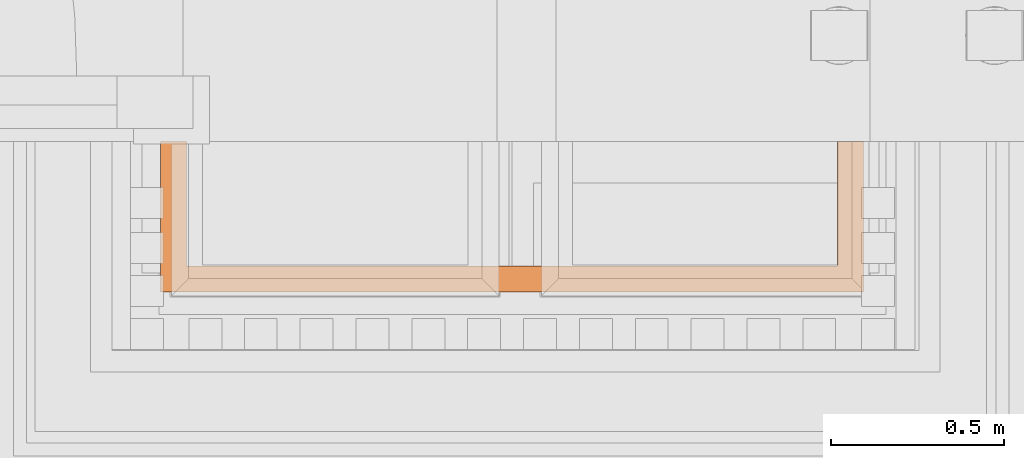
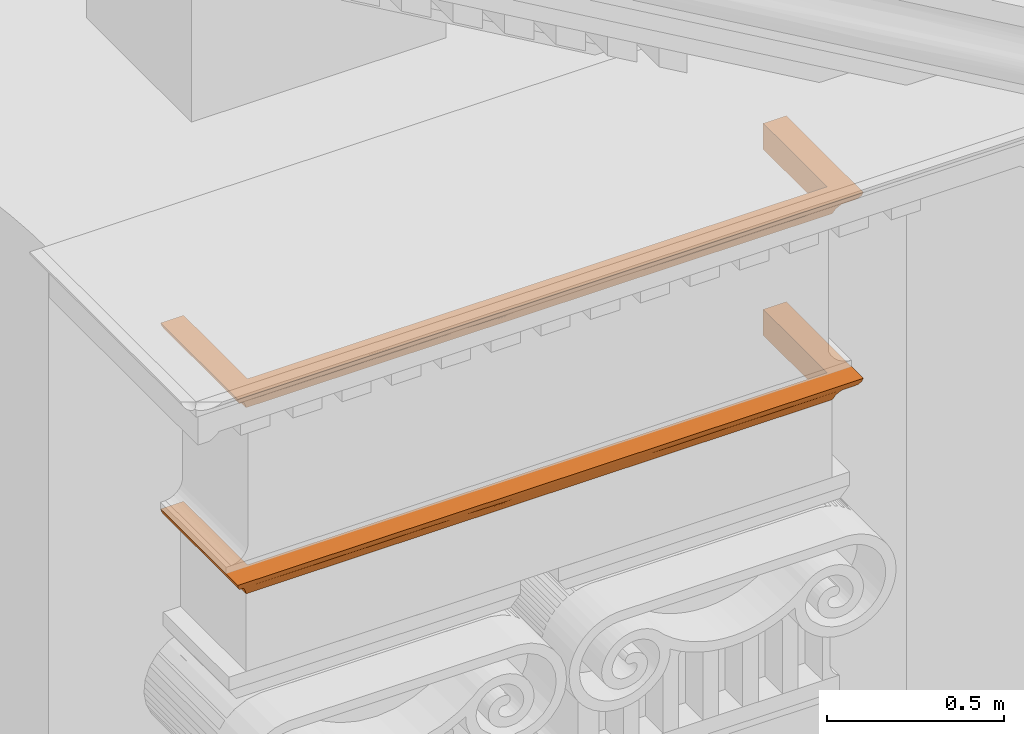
# One storey, part 34 of 44: 2 proxies.
"""IFC2X3 building model written with IfcOpenShell, lengths in metres."""

from ifc_helpers import new_model, entity, si_unit, converted_unit, derived_unit, direction, frame, origin, place, context, subcontext, project, spatial, faceted_brep, material, element, save


model = new_model("IFC2X3")

# Units and contexts
model_context = context("Model", 3, precision=1e-05, world=origin(), true_north=direction((6.12303176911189e-17, 1.0)))
body_context = subcontext(model_context, "Body", "Model", "MODEL_VIEW")
ifc_project = project(units=[si_unit("LENGTHUNIT", "METRE"), si_unit("AREAUNIT", "SQUARE_METRE"), si_unit("VOLUMEUNIT", "CUBIC_METRE"), converted_unit("PLANEANGLEUNIT", "DEGREE", entity("IfcRatioMeasure", 0.0174532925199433), si_unit("PLANEANGLEUNIT", "RADIAN"), dimensions=[0, 0, 0, 0, 0, 0, 0]), si_unit("MASSUNIT", "GRAM", prefix="KILO"), derived_unit("MASSDENSITYUNIT", [(si_unit("MASSUNIT", "GRAM", prefix="KILO"), 1), (si_unit("LENGTHUNIT", "METRE"), -3)]), si_unit("TIMEUNIT", "SECOND"), si_unit("FREQUENCYUNIT", "HERTZ"), si_unit("THERMODYNAMICTEMPERATUREUNIT", "DEGREE_CELSIUS"), derived_unit("THERMALTRANSMITTANCEUNIT", [(si_unit("MASSUNIT", "GRAM", prefix="KILO"), 1), (si_unit("THERMODYNAMICTEMPERATUREUNIT", "KELVIN"), -1), (si_unit("TIMEUNIT", "SECOND"), -3)]), derived_unit("VOLUMETRICFLOWRATEUNIT", [(si_unit("LENGTHUNIT", "METRE"), 3), (si_unit("TIMEUNIT", "SECOND"), -1)]), si_unit("ELECTRICCURRENTUNIT", "AMPERE"), si_unit("ELECTRICVOLTAGEUNIT", "VOLT"), si_unit("POWERUNIT", "WATT"), si_unit("FORCEUNIT", "NEWTON", prefix="KILO"), si_unit("ILLUMINANCEUNIT", "LUX"), si_unit("LUMINOUSFLUXUNIT", "LUMEN"), si_unit("LUMINOUSINTENSITYUNIT", "CANDELA"), derived_unit("USERDEFINED", [(si_unit("MASSUNIT", "GRAM", prefix="KILO"), -1), (si_unit("LENGTHUNIT", "METRE"), -2), (si_unit("TIMEUNIT", "SECOND"), 3), (si_unit("LUMINOUSFLUXUNIT", "LUMEN"), 1)]), derived_unit("LINEARVELOCITYUNIT", [(si_unit("LENGTHUNIT", "METRE"), 1), (si_unit("TIMEUNIT", "SECOND"), -1)]), si_unit("PRESSUREUNIT", "PASCAL"), derived_unit("USERDEFINED", [(si_unit("LENGTHUNIT", "METRE"), -2), (si_unit("MASSUNIT", "GRAM", prefix="KILO"), 1), (si_unit("TIMEUNIT", "SECOND"), -2)])], contexts=[model_context])

# Site, building, storey
site_placement = place(None, origin())
site = spatial("IfcSite", under=ifc_project, at=site_placement, Name="Default", CompositionType="ELEMENT")
building_placement = place(site_placement, origin())
building = spatial("IfcBuilding", under=site, at=building_placement, CompositionType="ELEMENT")
storey_placement = place(building_placement, origin())
storey = spatial("IfcBuildingStorey", under=building, at=storey_placement, Name="Livello 1", CompositionType="ELEMENT", Elevation=0.0)

# Proxies
ifc_material = material(Name="Piperno")
proxy_1_placement = place(storey_placement, frame((2.75105647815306, 0.826731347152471, 21.9353568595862)))
element("IfcBuildingElementProxy", 1, at=proxy_1_placement, inside=storey, material=ifc_material, Name="Stratigrafia", context=body_context, shape_type="Brep", body=[
    faceted_brep([(1.96261294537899, 0.436641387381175, 0.0912885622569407), (2.03761294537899, 0.436641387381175, 0.0912885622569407), (2.03387347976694, 0.436641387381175, 0.0791148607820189), (2.02722756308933, 0.436641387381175, 0.0682514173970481), (2.01809170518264, 0.436641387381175, 0.0593790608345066), (2.007038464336, 0.436641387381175, 0.0530538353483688), (1.99242845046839, 0.436641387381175, 0.038323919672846), (1.98112304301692, 0.436641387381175, 0.020928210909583), (1.97359573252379, 0.436641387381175, 0.0015952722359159), (1.96261294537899, 0.436641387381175, 0.0015952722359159), (0.0467797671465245, 0.436641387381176, 0.038323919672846), (0.0321697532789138, 0.436641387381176, 0.0530538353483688), (0.0211165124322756, 0.436641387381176, 0.0593790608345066), (0.0119806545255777, 0.436641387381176, 0.0682514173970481), (0.00533473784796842, 0.436641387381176, 0.0791148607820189), (0.00159527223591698, 0.436641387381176, 0.0912885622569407), (0.0765952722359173, 0.436641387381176, 0.0912885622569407), (0.0765952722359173, 0.436641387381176, 0.0015952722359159), (0.0656124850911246, 0.436641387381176, 0.0015952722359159), (0.0580851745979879, 0.436641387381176, 0.020928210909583), (2.007038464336, 0.207952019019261, 0.0530538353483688), (2.007038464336, 0.187600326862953, 0.0530538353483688), (2.007038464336, 0.032169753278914, 0.0530538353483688), (1.99242845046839, 0.0467797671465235, 0.038323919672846), (1.98112304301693, 0.0580851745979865, 0.020928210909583), (1.97359573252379, 0.0656124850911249, 0.0015952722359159), (1.62202667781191, 0.0656124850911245, 0.0015952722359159), (1.27046453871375, 0.0656124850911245, 0.0015952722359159), (1.0196006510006, 0.0656124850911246, 0.0015952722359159), (0.768736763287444, 0.0656124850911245, 0.0015952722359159), (0.417174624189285, 0.0656124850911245, 0.0015952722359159), (0.0656124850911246, 0.065612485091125, 0.0015952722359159), (0.0765952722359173, 0.0765952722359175, 0.0015952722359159), (1.96261294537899, 0.0765952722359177, 0.0015952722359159), (1.96261294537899, 0.0765952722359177, 0.0912885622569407), (0.00159527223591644, 0.250636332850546, 0.0912885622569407), (0.00159527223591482, 0.00159527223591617, 0.0912885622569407), (0.250633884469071, 0.00159527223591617, 0.0912885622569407), (0.499675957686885, 0.00159527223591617, 0.0912885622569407), (0.759640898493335, 0.00159527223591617, 0.0912885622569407), (1.01960237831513, 0.00159527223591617, 0.0912885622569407), (1.27956731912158, 0.00159527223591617, 0.0912885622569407), (1.53953225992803, 0.00159527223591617, 0.0912885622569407), (1.78857087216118, 0.00159527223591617, 0.0912885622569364), (2.03761294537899, 0.00159527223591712, 0.0912885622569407), (2.03761294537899, 0.250636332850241, 0.0912885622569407), (0.0765952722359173, 0.0765952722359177, 0.0912885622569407), (2.03387347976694, 0.00533473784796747, 0.0791148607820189), (2.03089181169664, 0.224311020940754, 0.0734743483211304), (2.0350515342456, 0.266552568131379, 0.0819540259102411), (2.01809170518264, 0.0211165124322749, 0.0593790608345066), (2.01517555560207, 0.262980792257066, 0.0573396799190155), (2.02293837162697, 0.232788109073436, 0.0635282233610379), (2.02722756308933, 0.0119806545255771, 0.0682514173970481), (0.0467797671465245, 0.0467797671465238, 0.038323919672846), (0.0580851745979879, 0.0580851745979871, 0.020928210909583), (0.367866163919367, 0.0521366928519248, 0.0310412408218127), (1.67134205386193, 0.0521366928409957, 0.031041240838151), (0.383732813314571, 0.0321697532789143, 0.0530538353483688), (1.65547540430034, 0.0321697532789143, 0.0530538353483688), (1.45159991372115, 0.0460051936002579, 0.0392723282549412), (0.592959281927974, 0.0590390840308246, 0.019018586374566), (1.17857156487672, 0.049325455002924, 0.0350321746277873), (1.33754250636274, 0.0321697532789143, 0.0530538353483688), (1.26864147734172, 0.0321697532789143, 0.0530538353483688), (1.02833349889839, 0.0321697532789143, 0.0530538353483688), (1.01960410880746, 0.0321697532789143, 0.0530538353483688), (0.860636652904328, 0.0522964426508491, 0.0308017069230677), (0.779291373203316, 0.0321697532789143, 0.0530538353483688), (0.701665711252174, 0.0321697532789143, 0.0530538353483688), (1.75799633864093, 0.0321697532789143, 0.0530538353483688), (0.281211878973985, 0.0321697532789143, 0.0530538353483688), (0.0321697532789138, 0.0321697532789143, 0.0530538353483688), (0.604066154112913, 0.0469191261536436, 0.0381507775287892), (0.530254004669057, 0.0321697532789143, 0.0530538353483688), (1.42275632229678, 0.0580212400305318, 0.021052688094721), (1.14503538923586, 0.0596767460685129, 0.0176830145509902), (1.50895421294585, 0.0321697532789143, 0.0530538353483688), (0.546115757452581, 0.00416868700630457, 0.081922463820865), (0.375156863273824, 0.00622593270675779, 0.0772409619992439), (0.585577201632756, 0.00852306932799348, 0.0731394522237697), (1.85863883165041, 0.00817935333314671, 0.0736996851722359), (0.180569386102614, 0.00817935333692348, 0.0736996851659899), (0.195154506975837, 0.0146448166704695, 0.065179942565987), (0.391043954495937, 0.0157075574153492, 0.0640828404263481), (0.267640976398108, 0.0224796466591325, 0.0583878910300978), (1.77156724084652, 0.0224796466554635, 0.058387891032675), (0.00533473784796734, 0.00533473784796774, 0.0791148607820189), (0.0119806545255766, 0.0119806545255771, 0.0682514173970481), (1.59272306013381, 0.0227911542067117, 0.058170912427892), (1.66405135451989, 0.00622593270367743, 0.0772409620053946), (0.960630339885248, 0.00510136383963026, 0.0796404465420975), (1.24637643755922, 0.00976144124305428, 0.0712452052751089), (1.4095491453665, 0.00485209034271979, 0.0802202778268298), (1.1986408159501, 0.0044919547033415, 0.0810951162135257), (0.915845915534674, 0.0196818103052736, 0.0604998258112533), (0.809439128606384, 0.0097344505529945, 0.0712845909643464), (0.639048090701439, 0.016007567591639, 0.0637847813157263), (1.84405371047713, 0.0146448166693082, 0.0651799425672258), (1.47132453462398, 0.010690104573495, 0.0699361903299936), (1.43760442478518, 0.0189403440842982, 0.0611124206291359), (0.729067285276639, 0.00473336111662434, 0.0805036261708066), (0.173994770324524, 0.00391099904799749, 0.0826144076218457), (0.463092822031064, 0.023354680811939, 0.0577870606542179), (1.02783945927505, 0.0108170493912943, 0.0697638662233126), (1.21750503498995, 0.0210338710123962, 0.0594414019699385), (1.8652134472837, 0.00391099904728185, 0.0826144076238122), (1.64816426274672, 0.0157075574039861, 0.0640828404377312), (0.661373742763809, 0.0244211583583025, 0.0570902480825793), (0.0211165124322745, 0.021116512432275, 0.0593790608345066), (0.0321697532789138, 0.187600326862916, 0.0530538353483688), (0.0321697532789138, 0.207952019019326, 0.0530538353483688), (0.0083164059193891, 0.22431102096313, 0.0734743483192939), (0.00403364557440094, 0.180264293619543, 0.0822812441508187), (0.0236134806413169, 0.19090797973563, 0.0576144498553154), (0.0162698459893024, 0.232788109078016, 0.0635282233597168)], [[[0, 1, 2, 3, 4, 5, 6, 7, 8, 9]], [[10, 11, 12, 13, 14, 15, 16, 17, 18, 19]], [[6, 5, 20, 21, 22, 23]], [[23, 24, 7, 6]], [[25, 8, 7, 24]], [[9, 8, 25, 26, 27, 28, 29, 30, 31, 18, 17, 32, 33]], [[0, 9, 33, 34]], [[16, 15, 35, 36, 37, 38, 39, 40, 41, 42, 43, 44, 45, 1, 0, 34, 46]], [[47, 48, 49]], [[50, 51, 52]], [[49, 48, 2]], [[45, 44, 49, 1]], [[44, 47, 49]], [[52, 53, 50]], [[2, 48, 3]], [[51, 21, 20, 5]], [[3, 48, 52]], [[1, 49, 2]], [[21, 51, 50]], [[5, 4, 51]], [[50, 22, 21]], [[53, 52, 48]], [[52, 51, 4]], [[52, 4, 3]], [[47, 53, 48]], [[54, 55, 56]], [[26, 25, 24]], [[30, 55, 31]], [[57, 24, 23]], [[58, 54, 56]], [[23, 59, 57]], [[59, 60, 57]], [[61, 56, 30]], [[62, 63, 64, 65, 66]], [[67, 66, 68, 69]], [[67, 62, 66]], [[23, 22, 70, 59]], [[54, 58, 71, 72]], [[73, 69, 74, 58]], [[56, 55, 30]], [[57, 26, 24]], [[27, 26, 75]], [[27, 76, 28]], [[67, 73, 61]], [[30, 29, 61]], [[76, 27, 75]], [[57, 60, 75]], [[62, 67, 76]], [[28, 76, 67]], [[28, 67, 29]], [[62, 60, 63]], [[76, 75, 62]], [[57, 75, 26]], [[75, 60, 62]], [[60, 59, 77, 63]], [[56, 61, 73]], [[61, 29, 67]], [[56, 73, 58]], [[69, 73, 67]], [[34, 33, 32, 46]], [[78, 79, 80]], [[53, 47, 81]], [[82, 83, 84]], [[72, 71, 85]], [[86, 70, 22]], [[87, 88, 82]], [[70, 86, 89]], [[38, 37, 79]], [[42, 90, 43]], [[91, 40, 39]], [[92, 93, 94]], [[95, 96, 97]], [[86, 50, 98]], [[53, 81, 98]], [[93, 99, 90]], [[92, 100, 99]], [[101, 80, 96]], [[82, 102, 87]], [[85, 84, 83]], [[84, 79, 82]], [[36, 87, 102]], [[97, 80, 84]], [[103, 84, 85]], [[92, 104, 105]], [[81, 106, 90]], [[44, 43, 106]], [[36, 102, 37]], [[98, 81, 107]], [[99, 93, 92]], [[108, 74, 69, 68]], [[82, 88, 83]], [[71, 103, 85]], [[50, 86, 22]], [[102, 79, 37]], [[88, 109, 83]], [[109, 72, 85]], [[109, 85, 83]], [[103, 71, 58, 74]], [[97, 96, 80]], [[103, 97, 84]], [[94, 104, 92]], [[103, 108, 97]], [[95, 68, 66, 65]], [[95, 97, 108]], [[95, 65, 105]], [[100, 64, 63, 77]], [[99, 100, 107]], [[39, 101, 91]], [[84, 80, 79]], [[101, 96, 91]], [[80, 101, 78]], [[78, 39, 38]], [[104, 91, 96]], [[41, 94, 93]], [[41, 93, 42]], [[91, 94, 40]], [[90, 42, 93]], [[96, 95, 104]], [[105, 104, 95]], [[100, 92, 105]], [[90, 99, 107]], [[100, 105, 64]], [[107, 89, 86]], [[106, 81, 47]], [[107, 81, 90]], [[86, 98, 107]], [[50, 53, 98]], [[107, 100, 89]], [[39, 78, 101]], [[79, 78, 38]], [[79, 102, 82]], [[44, 106, 47]], [[90, 106, 43]], [[100, 77, 89]], [[89, 77, 59, 70]], [[40, 94, 41]], [[104, 94, 91]], [[74, 108, 103]], [[95, 108, 68]], [[105, 65, 64]], [[54, 72, 110, 111, 11, 10]], [[10, 19, 55, 54]], [[19, 18, 31, 55]], [[46, 32, 17, 16]], [[14, 112, 113]], [[12, 114, 115]], [[35, 15, 14]], [[36, 35, 113]], [[13, 12, 115]], [[14, 13, 112]], [[112, 87, 113]], [[72, 114, 11, 111, 110]], [[114, 72, 109]], [[112, 13, 115]], [[36, 113, 87]], [[114, 12, 11]], [[88, 112, 115]], [[88, 115, 109]], [[109, 115, 114]], [[14, 113, 35]], [[87, 112, 88]]]),
])
proxy_2_placement = place(storey_placement, frame((2.75105647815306, 0.82673134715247, 22.5753568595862)))
element("IfcBuildingElementProxy", 2, at=proxy_2_placement, inside=storey, material=ifc_material, Name="Stratigrafia", context=body_context, shape_type="Brep", body=[
    faceted_brep([(1.96261294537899, 0.436641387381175, 0.0912885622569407), (2.03761294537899, 0.436641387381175, 0.0912885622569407), (2.03387347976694, 0.436641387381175, 0.0791148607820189), (2.02722756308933, 0.436641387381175, 0.0682514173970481), (2.01809170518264, 0.436641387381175, 0.0593790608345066), (2.007038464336, 0.436641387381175, 0.0530538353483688), (1.99242845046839, 0.436641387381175, 0.038323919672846), (1.98112304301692, 0.436641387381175, 0.020928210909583), (1.97359573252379, 0.436641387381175, 0.0015952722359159), (1.96261294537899, 0.436641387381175, 0.0015952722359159), (0.0467797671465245, 0.436641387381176, 0.038323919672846), (0.0321697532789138, 0.436641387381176, 0.0530538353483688), (0.0211165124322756, 0.436641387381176, 0.0593790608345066), (0.0119806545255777, 0.436641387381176, 0.0682514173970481), (0.00533473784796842, 0.436641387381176, 0.0791148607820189), (0.00159527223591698, 0.436641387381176, 0.0912885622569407), (0.0765952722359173, 0.436641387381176, 0.0912885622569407), (0.0765952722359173, 0.436641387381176, 0.0015952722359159), (0.0656124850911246, 0.436641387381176, 0.0015952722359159), (0.0580851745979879, 0.436641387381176, 0.020928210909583), (2.007038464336, 0.207952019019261, 0.0530538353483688), (2.007038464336, 0.187600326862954, 0.0530538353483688), (2.007038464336, 0.0321697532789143, 0.0530538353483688), (1.99242845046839, 0.0467797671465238, 0.038323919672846), (1.98112304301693, 0.0580851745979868, 0.020928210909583), (1.97359573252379, 0.0656124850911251, 0.0015952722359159), (1.62202667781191, 0.0656124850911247, 0.0015952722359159), (1.27046453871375, 0.0656124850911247, 0.0015952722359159), (1.0196006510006, 0.0656124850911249, 0.0015952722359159), (0.768736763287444, 0.0656124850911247, 0.0015952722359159), (0.417174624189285, 0.0656124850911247, 0.0015952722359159), (0.0656124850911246, 0.0656124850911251, 0.0015952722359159), (0.0765952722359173, 0.0765952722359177, 0.0015952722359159), (1.96261294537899, 0.0765952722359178, 0.0015952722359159), (1.96261294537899, 0.0765952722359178, 0.0912885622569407), (0.00159527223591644, 0.250636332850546, 0.0912885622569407), (0.00159527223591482, 0.00159527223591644, 0.0912885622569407), (0.250633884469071, 0.00159527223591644, 0.0912885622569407), (0.499675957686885, 0.00159527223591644, 0.0912885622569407), (0.759640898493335, 0.00159527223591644, 0.0912885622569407), (1.01960237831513, 0.00159527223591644, 0.0912885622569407), (1.27956731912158, 0.00159527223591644, 0.0912885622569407), (1.53953225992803, 0.00159527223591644, 0.0912885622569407), (1.78857087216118, 0.00159527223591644, 0.0912885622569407), (2.03761294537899, 0.00159527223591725, 0.0912885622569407), (2.03761294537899, 0.250636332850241, 0.0912885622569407), (0.0765952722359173, 0.0765952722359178, 0.0912885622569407), (2.03387347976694, 0.00533473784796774, 0.0791148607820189), (2.03089181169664, 0.224311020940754, 0.0734743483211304), (2.0350515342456, 0.266552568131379, 0.0819540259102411), (2.01809170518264, 0.0211165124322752, 0.0593790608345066), (2.01517555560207, 0.262980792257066, 0.0573396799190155), (2.02293837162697, 0.232788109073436, 0.0635282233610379), (2.02722756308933, 0.0119806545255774, 0.0682514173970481), (0.0467797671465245, 0.0467797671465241, 0.038323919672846), (0.0580851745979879, 0.0580851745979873, 0.020928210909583), (0.367866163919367, 0.052136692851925, 0.0310412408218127), (1.67134205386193, 0.0521366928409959, 0.031041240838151), (0.383732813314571, 0.0321697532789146, 0.0530538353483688), (1.65547540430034, 0.0321697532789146, 0.0530538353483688), (1.45159991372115, 0.0460051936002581, 0.0392723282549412), (0.592959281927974, 0.0590390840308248, 0.019018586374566), (1.17857156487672, 0.0493254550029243, 0.0350321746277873), (1.33754250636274, 0.0321697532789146, 0.0530538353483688), (1.26864147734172, 0.0321697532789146, 0.0530538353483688), (1.02833349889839, 0.0321697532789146, 0.0530538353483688), (1.01960410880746, 0.0321697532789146, 0.0530538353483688), (0.860636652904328, 0.0522964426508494, 0.0308017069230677), (0.779291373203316, 0.0321697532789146, 0.0530538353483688), (0.701665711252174, 0.0321697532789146, 0.0530538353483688), (1.75799633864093, 0.0321697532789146, 0.0530538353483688), (0.281211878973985, 0.0321697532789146, 0.0530538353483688), (0.0321697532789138, 0.0321697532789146, 0.0530538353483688), (0.604066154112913, 0.0469191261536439, 0.0381507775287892), (0.530254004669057, 0.0321697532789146, 0.0530538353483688), (1.42275632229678, 0.058021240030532, 0.021052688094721), (1.14503538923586, 0.0596767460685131, 0.0176830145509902), (1.50895421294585, 0.0321697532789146, 0.0530538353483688), (0.546115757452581, 0.00416868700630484, 0.081922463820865), (0.375156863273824, 0.00622593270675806, 0.0772409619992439), (0.585577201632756, 0.00852306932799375, 0.0731394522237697), (1.85863883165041, 0.00817935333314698, 0.0736996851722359), (0.180569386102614, 0.00817935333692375, 0.0736996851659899), (0.195154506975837, 0.0146448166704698, 0.065179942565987), (0.391043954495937, 0.0157075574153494, 0.0640828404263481), (0.267640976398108, 0.0224796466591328, 0.0583878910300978), (1.77156724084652, 0.0224796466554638, 0.058387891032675), (0.00533473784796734, 0.00533473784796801, 0.0791148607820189), (0.0119806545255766, 0.0119806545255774, 0.0682514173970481), (1.59272306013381, 0.0227911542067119, 0.058170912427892), (1.66405135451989, 0.00622593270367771, 0.0772409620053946), (0.960630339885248, 0.00510136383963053, 0.0796404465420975), (1.24637643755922, 0.00976144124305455, 0.0712452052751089), (1.4095491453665, 0.00485209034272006, 0.0802202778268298), (1.1986408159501, 0.00449195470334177, 0.0810951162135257), (0.915845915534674, 0.0196818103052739, 0.0604998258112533), (0.809439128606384, 0.00973445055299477, 0.0712845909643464), (0.639048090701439, 0.0160075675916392, 0.0637847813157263), (1.84405371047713, 0.0146448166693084, 0.0651799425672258), (1.47132453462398, 0.0106901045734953, 0.0699361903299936), (1.43760442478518, 0.0189403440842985, 0.0611124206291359), (0.729067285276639, 0.00473336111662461, 0.0805036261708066), (0.173994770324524, 0.00391099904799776, 0.0826144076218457), (0.463092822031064, 0.0233546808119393, 0.0577870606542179), (1.02783945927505, 0.0108170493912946, 0.0697638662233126), (1.21750503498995, 0.0210338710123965, 0.0594414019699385), (1.8652134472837, 0.00391099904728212, 0.0826144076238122), (1.64816426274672, 0.0157075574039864, 0.0640828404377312), (0.661373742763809, 0.0244211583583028, 0.0570902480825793), (0.0211165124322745, 0.0211165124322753, 0.0593790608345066), (0.0321697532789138, 0.187600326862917, 0.0530538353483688), (0.0321697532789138, 0.207952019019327, 0.0530538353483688), (0.0083164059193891, 0.224311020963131, 0.0734743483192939), (0.00403364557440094, 0.180264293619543, 0.0822812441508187), (0.0236134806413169, 0.19090797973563, 0.0576144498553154), (0.0162698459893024, 0.232788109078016, 0.0635282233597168)], [[[0, 1, 2, 3, 4, 5, 6, 7, 8, 9]], [[10, 11, 12, 13, 14, 15, 16, 17, 18, 19]], [[6, 5, 20, 21, 22, 23]], [[23, 24, 7, 6]], [[25, 8, 7, 24]], [[9, 8, 25, 26, 27, 28, 29, 30, 31, 18, 17, 32, 33]], [[0, 9, 33, 34]], [[16, 15, 35, 36, 37, 38, 39, 40, 41, 42, 43, 44, 45, 1, 0, 34, 46]], [[47, 48, 49]], [[50, 51, 52]], [[49, 48, 2]], [[45, 44, 49, 1]], [[44, 47, 49]], [[52, 53, 50]], [[2, 48, 3]], [[51, 21, 20, 5]], [[3, 48, 52]], [[1, 49, 2]], [[21, 51, 50]], [[5, 4, 51]], [[50, 22, 21]], [[53, 52, 48]], [[52, 51, 4]], [[52, 4, 3]], [[47, 53, 48]], [[54, 55, 56]], [[26, 25, 24]], [[30, 55, 31]], [[57, 24, 23]], [[58, 54, 56]], [[23, 59, 57]], [[59, 60, 57]], [[61, 56, 30]], [[62, 63, 64, 65, 66]], [[67, 66, 68, 69]], [[67, 62, 66]], [[23, 22, 70, 59]], [[54, 58, 71, 72]], [[73, 69, 74, 58]], [[56, 55, 30]], [[57, 26, 24]], [[27, 26, 75]], [[27, 76, 28]], [[67, 73, 61]], [[30, 29, 61]], [[76, 27, 75]], [[57, 60, 75]], [[62, 67, 76]], [[28, 76, 67]], [[28, 67, 29]], [[62, 60, 63]], [[76, 75, 62]], [[57, 75, 26]], [[75, 60, 62]], [[60, 59, 77, 63]], [[56, 61, 73]], [[61, 29, 67]], [[56, 73, 58]], [[69, 73, 67]], [[34, 33, 32, 46]], [[78, 79, 80]], [[53, 47, 81]], [[82, 83, 84]], [[72, 71, 85]], [[86, 70, 22]], [[87, 88, 82]], [[70, 86, 89]], [[38, 37, 79]], [[42, 90, 43]], [[91, 40, 39]], [[92, 93, 94]], [[95, 96, 97]], [[86, 50, 98]], [[53, 81, 98]], [[93, 99, 90]], [[92, 100, 99]], [[101, 80, 96]], [[82, 102, 87]], [[85, 84, 83]], [[84, 79, 82]], [[36, 87, 102]], [[97, 80, 84]], [[103, 84, 85]], [[92, 104, 105]], [[81, 106, 90]], [[44, 43, 106]], [[36, 102, 37]], [[98, 81, 107]], [[99, 93, 92]], [[108, 74, 69, 68]], [[82, 88, 83]], [[71, 103, 85]], [[50, 86, 22]], [[102, 79, 37]], [[88, 109, 83]], [[109, 72, 85]], [[109, 85, 83]], [[103, 71, 58, 74]], [[97, 96, 80]], [[103, 97, 84]], [[94, 104, 92]], [[103, 108, 97]], [[95, 68, 66, 65]], [[95, 97, 108]], [[95, 65, 105]], [[100, 64, 63, 77]], [[99, 100, 107]], [[39, 101, 91]], [[84, 80, 79]], [[101, 96, 91]], [[80, 101, 78]], [[78, 39, 38]], [[104, 91, 96]], [[41, 94, 93]], [[41, 93, 42]], [[91, 94, 40]], [[90, 42, 93]], [[96, 95, 104]], [[105, 104, 95]], [[100, 92, 105]], [[90, 99, 107]], [[100, 105, 64]], [[107, 89, 86]], [[106, 81, 47]], [[107, 81, 90]], [[86, 98, 107]], [[50, 53, 98]], [[107, 100, 89]], [[39, 78, 101]], [[79, 78, 38]], [[79, 102, 82]], [[44, 106, 47]], [[90, 106, 43]], [[100, 77, 89]], [[89, 77, 59, 70]], [[40, 94, 41]], [[104, 94, 91]], [[74, 108, 103]], [[95, 108, 68]], [[105, 65, 64]], [[54, 72, 110, 111, 11, 10]], [[10, 19, 55, 54]], [[19, 18, 31, 55]], [[46, 32, 17, 16]], [[14, 112, 113]], [[12, 114, 115]], [[35, 15, 14]], [[36, 35, 113]], [[13, 12, 115]], [[14, 13, 112]], [[112, 87, 113]], [[72, 114, 11, 111, 110]], [[114, 72, 109]], [[112, 13, 115]], [[36, 113, 87]], [[114, 12, 11]], [[88, 112, 115]], [[88, 115, 109]], [[109, 115, 114]], [[14, 113, 35]], [[87, 112, 88]]]),
])

save(model, "model.ifc")
